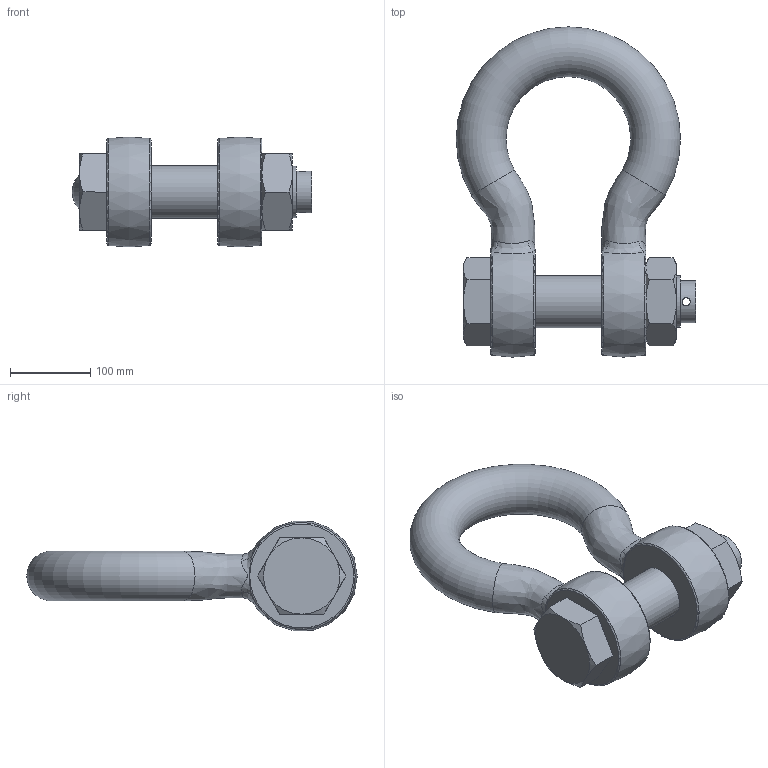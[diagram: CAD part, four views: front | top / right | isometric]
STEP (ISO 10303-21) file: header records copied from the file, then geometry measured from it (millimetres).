
FILE_DESCRIPTION(/* description */ (''),/* implementation_level */ '2;1');
FILE_NAME(/* name */ 'C:\Users\D\Documents\Inventor\HP\吊具\シャックル\BB_2\bb_55.stp',/* time_stamp */ '2024-11-20T10:47:16+09:00',/* author */ ('D'),/* organization */ (''),/* preprocessor_version */ 'ST-DEVELOPER v18',/* originating_system */ 'Autodesk Inventor 2020',/* authorisation */ '');
FILE_SCHEMA (('AUTOMOTIVE_DESIGN { 1 0 10303 214 3 1 1 }'));
Length unit declared in the file: millimetre
Products named in the file (3): bb_55; ba_6; sb_pin_10
Assembly tree (2 placements, depth 2):
  bb_55
    ba_6
    sb_pin_10
Bounding box: 298 x 411 x 136.68 mm (x, y, z)
Volume: 4302001.2 mm3; surface area: 330974.4 mm2
Topology: 4 solids, 4 shells, 69 faces, 169 edges, 109 vertices
Faces by surface type: plane 26, cone 19, bspline 12, cylinder 7, torus 5
Full cylindrical faces by diameter (mm): 10 x1, 52 x1, 64 x2, 65 x1, 67 x2
Entity records: 3811 total; most frequent: CARTESIAN_POINT 2222, ORIENTED_EDGE 334, DIRECTION 293, EDGE_CURVE 167, AXIS2_PLACEMENT_3D 133, VERTEX_POINT 109, EDGE_LOOP 78, CIRCLE 71
